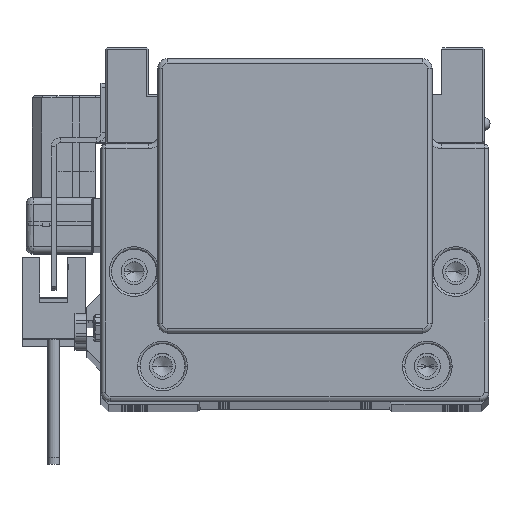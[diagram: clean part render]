
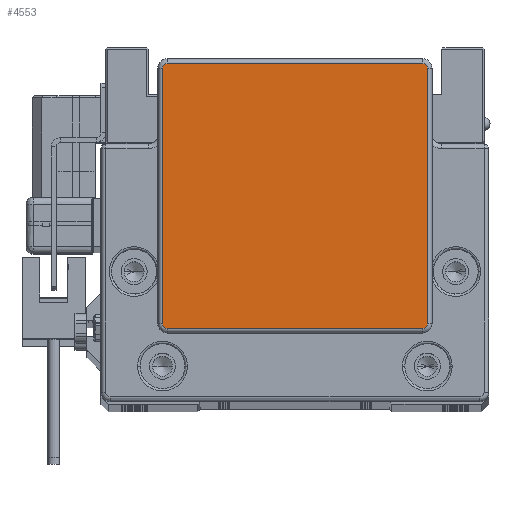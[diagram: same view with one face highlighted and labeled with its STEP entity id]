
A CAD part, top view. The second image highlights one B-rep face of the part: STEP entity #4553.
In plain terms, the highlighted planar face has unit normal (0, 0, 1).
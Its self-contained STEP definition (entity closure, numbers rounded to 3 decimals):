
#661 = VECTOR ( 'NONE', #36654, 1000. ) ;
#933 = ORIENTED_EDGE ( 'NONE', *, *, #20412, .T. ) ;
#1026 = CARTESIAN_POINT ( 'NONE',  ( 28., 34.25, 17. ) ) ;
#2228 = EDGE_CURVE ( 'NONE', #9389, #53645, #35698, .T. ) ;
#4553 = ADVANCED_FACE ( 'NONE', ( #40134 ), #52884, .T. ) ;
#4577 = VERTEX_POINT ( 'NONE', #19568 ) ;
#7291 = DIRECTION ( 'NONE',  ( 1., 0., 0. ) ) ;
#7343 = DIRECTION ( 'NONE',  ( 1., 0., 0. ) ) ;
#9213 = AXIS2_PLACEMENT_3D ( 'NONE', #28728, #54555, #12362 ) ;
#9389 = VERTEX_POINT ( 'NONE', #28984 ) ;
#9840 = AXIS2_PLACEMENT_3D ( 'NONE', #44765, #32820, #7291 ) ;
#11367 = CIRCLE ( 'NONE', #26386, 1. ) ;
#12362 = DIRECTION ( 'NONE',  ( 1., 0., 0. ) ) ;
#13178 = ORIENTED_EDGE ( 'NONE', *, *, #2228, .T. ) ;
#13740 = CARTESIAN_POINT ( 'NONE',  ( -27., -19.75, 17. ) ) ;
#14379 = ORIENTED_EDGE ( 'NONE', *, *, #16485, .T. ) ;
#14852 = DIRECTION ( 'NONE',  ( 0., 0., 1. ) ) ;
#16485 = EDGE_CURVE ( 'NONE', #4577, #21179, #21613, .T. ) ;
#18164 = CARTESIAN_POINT ( 'NONE',  ( 27., 35.25, 17. ) ) ;
#18922 = VERTEX_POINT ( 'NONE', #32731 ) ;
#19568 = CARTESIAN_POINT ( 'NONE',  ( -28., -19.75, 17. ) ) ;
#20412 = EDGE_CURVE ( 'NONE', #18922, #21817, #11367, .T. ) ;
#21179 = VERTEX_POINT ( 'NONE', #44357 ) ;
#21613 = CIRCLE ( 'NONE', #9213, 1. ) ;
#21817 = VERTEX_POINT ( 'NONE', #50906 ) ;
#22108 = LINE ( 'NONE', #1026, #37549 ) ;
#23759 = ORIENTED_EDGE ( 'NONE', *, *, #24405, .T. ) ;
#24298 = DIRECTION ( 'NONE',  ( 1., 0., 0. ) ) ;
#24405 = EDGE_CURVE ( 'NONE', #34354, #40480, #34648, .T. ) ;
#24477 = CARTESIAN_POINT ( 'NONE',  ( 28., -19.75, 17. ) ) ;
#24647 = CARTESIAN_POINT ( 'NONE',  ( -28., -19.75, 17. ) ) ;
#26386 = AXIS2_PLACEMENT_3D ( 'NONE', #54249, #37010, #7343 ) ;
#27767 = CARTESIAN_POINT ( 'NONE',  ( 27., -20.75, 17. ) ) ;
#27793 = ORIENTED_EDGE ( 'NONE', *, *, #39634, .T. ) ;
#28728 = CARTESIAN_POINT ( 'NONE',  ( -27., -19.75, 17. ) ) ;
#28740 = DIRECTION ( 'NONE',  ( 0., 0., 1. ) ) ;
#28984 = CARTESIAN_POINT ( 'NONE',  ( 28., 34.25, 17. ) ) ;
#31282 = AXIS2_PLACEMENT_3D ( 'NONE', #45698, #28740, #24298 ) ;
#31934 = CARTESIAN_POINT ( 'NONE',  ( 27., -20.75, 17. ) ) ;
#32731 = CARTESIAN_POINT ( 'NONE',  ( -27., 35.25, 17. ) ) ;
#32820 = DIRECTION ( 'NONE',  ( 0., 0., 1. ) ) ;
#33817 = ORIENTED_EDGE ( 'NONE', *, *, #36884, .T. ) ;
#34354 = VERTEX_POINT ( 'NONE', #31934 ) ;
#34648 = CIRCLE ( 'NONE', #9840, 1. ) ;
#35698 = CIRCLE ( 'NONE', #31282, 1. ) ;
#35879 = VECTOR ( 'NONE', #37450, 1000. ) ;
#36654 = DIRECTION ( 'NONE',  ( 1., 0., 0. ) ) ;
#36884 = EDGE_CURVE ( 'NONE', #53645, #18922, #46150, .T. ) ;
#37010 = DIRECTION ( 'NONE',  ( 0., 0., 1. ) ) ;
#37450 = DIRECTION ( 'NONE',  ( 0., -1., 0. ) ) ;
#37549 = VECTOR ( 'NONE', #47377, 1000. ) ;
#37776 = CARTESIAN_POINT ( 'NONE',  ( -27., 35.25, 17. ) ) ;
#39491 = VECTOR ( 'NONE', #50032, 1000. ) ;
#39634 = EDGE_CURVE ( 'NONE', #21179, #34354, #49152, .T. ) ;
#39980 = ORIENTED_EDGE ( 'NONE', *, *, #46901, .T. ) ;
#40089 = AXIS2_PLACEMENT_3D ( 'NONE', #13740, #14852, #43180 ) ;
#40134 = FACE_OUTER_BOUND ( 'NONE', #42583, .T. ) ;
#40480 = VERTEX_POINT ( 'NONE', #24477 ) ;
#42583 = EDGE_LOOP ( 'NONE', ( #33817, #933, #52774, #14379, #27793, #23759, #39980, #13178 ) ) ;
#43180 = DIRECTION ( 'NONE',  ( 1., 0., 0. ) ) ;
#44357 = CARTESIAN_POINT ( 'NONE',  ( -27., -20.75, 17. ) ) ;
#44765 = CARTESIAN_POINT ( 'NONE',  ( 27., -19.75, 17. ) ) ;
#45698 = CARTESIAN_POINT ( 'NONE',  ( 27., 34.25, 17. ) ) ;
#46150 = LINE ( 'NONE', #37776, #39491 ) ;
#46901 = EDGE_CURVE ( 'NONE', #40480, #9389, #22108, .T. ) ;
#47377 = DIRECTION ( 'NONE',  ( 0., 1., 0. ) ) ;
#49152 = LINE ( 'NONE', #27767, #661 ) ;
#49689 = LINE ( 'NONE', #24647, #35879 ) ;
#50032 = DIRECTION ( 'NONE',  ( -1., 0., 0. ) ) ;
#50906 = CARTESIAN_POINT ( 'NONE',  ( -28., 34.25, 17. ) ) ;
#52774 = ORIENTED_EDGE ( 'NONE', *, *, #53562, .T. ) ;
#52884 = PLANE ( 'NONE',  #40089 ) ;
#53562 = EDGE_CURVE ( 'NONE', #21817, #4577, #49689, .T. ) ;
#53645 = VERTEX_POINT ( 'NONE', #18164 ) ;
#54249 = CARTESIAN_POINT ( 'NONE',  ( -27., 34.25, 17. ) ) ;
#54555 = DIRECTION ( 'NONE',  ( 0., 0., 1. ) ) ;
